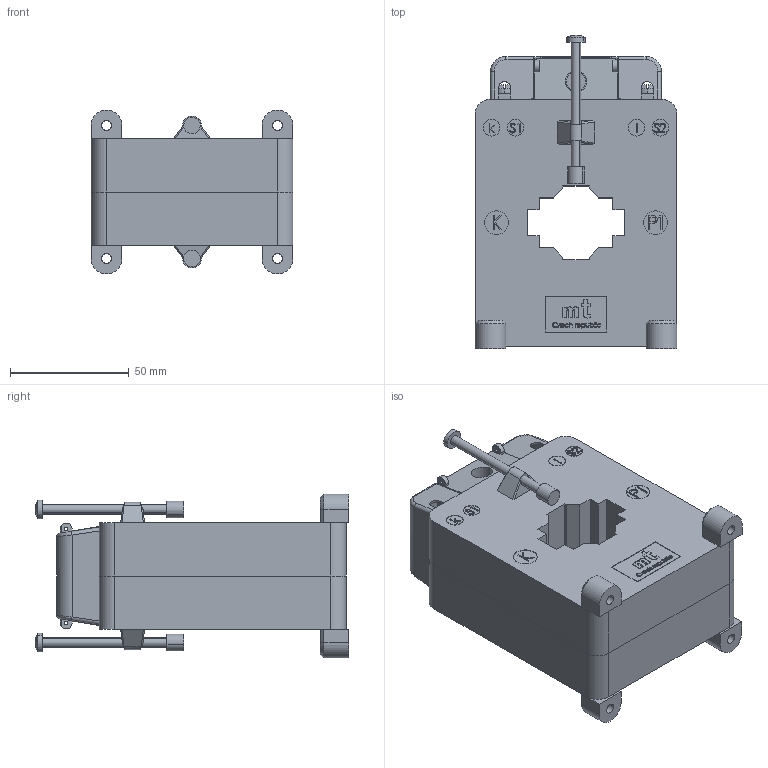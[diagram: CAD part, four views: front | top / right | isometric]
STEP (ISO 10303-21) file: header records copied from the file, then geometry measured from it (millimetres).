
FILE_DESCRIPTION (( 'STEP AP214' ), '1' );
FILE_NAME ('CLA 2.1.STEP', '2024-09-30T14:46:21', ( '' ), ( '' ), 'SwSTEP 2.0', 'SolidWorks 2024', '' );
FILE_SCHEMA (( 'AUTOMOTIVE_DESIGN' ));
Length unit declared in the file: millimetre
Products named in the file (11): CLA 2.1; Insulating cap; Secondary terminal cover CLA; Rivet 20; Front plastic case CLA 2.1; Tape label CLA 2.1; Screw 4x60; Plastic mounting foot; Screw M5x8; Back plastic case CLA 2.1; Secondary terminal
Assembly tree (19 placements, depth 2):
  CLA 2.1
    Front plastic case CLA 2.1
    Back plastic case CLA 2.1
    Tape label CLA 2.1
    Secondary terminal cover CLA
    Plastic mounting foot  x4
    Secondary terminal  x2
    Screw M5x8  x2
    Screw 4x60  x2
    Rivet 20  x3
    Insulating cap  x2
Bounding box: 85 x 132 x 69 mm (x, y, z)
Volume: 388080 mm3; surface area: 85416.6 mm2
Topology: 19 solids, 22 shells, 1378 faces, 3608 edges, 2378 vertices
Faces by surface type: plane 782, bspline 311, cylinder 225, cone 36, sphere 12, torus 12
Entity records: 51420 total; most frequent: CARTESIAN_POINT 23545, ORIENTED_EDGE 6150, DIRECTION 4453, EDGE_CURVE 3075, VECTOR 2069, LINE 2069, VERTEX_POINT 2036, EDGE_LOOP 1285
